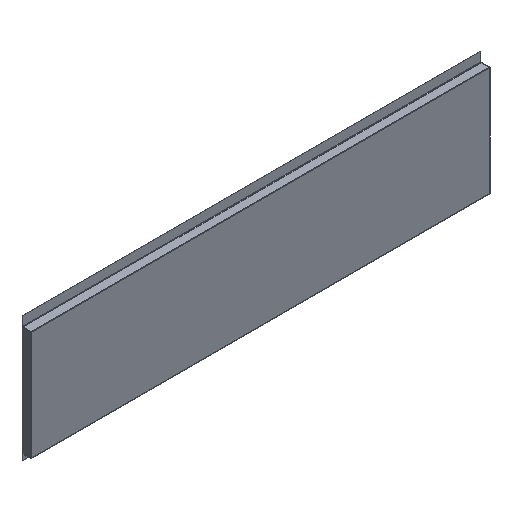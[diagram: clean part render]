
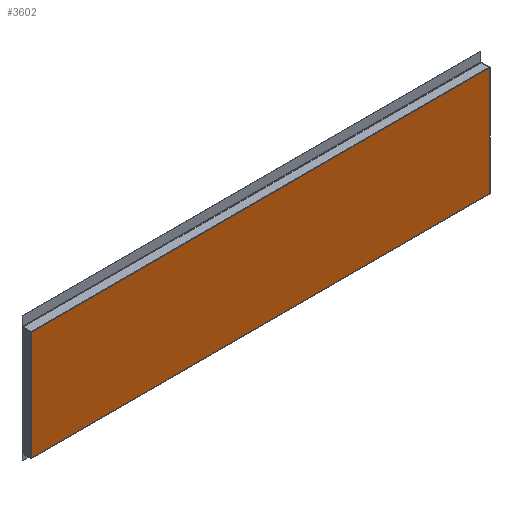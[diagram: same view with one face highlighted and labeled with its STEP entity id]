
A CAD part, isometric view. The second image highlights one B-rep face of the part: STEP entity #3602.
In plain terms, the highlighted planar face has unit normal (0, -1, 0).
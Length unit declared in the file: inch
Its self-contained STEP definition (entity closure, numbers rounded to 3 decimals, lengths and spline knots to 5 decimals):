
#464=FACE_OUTER_BOUND('',#644,.T.);
#644=EDGE_LOOP('',(#2895,#2896,#2897,#2898,#2899,#2900,#2901,#2902));
#1033=LINE('',#5918,#1389);
#1034=LINE('',#5921,#1390);
#1035=LINE('',#5923,#1391);
#1036=LINE('',#5925,#1392);
#1037=LINE('',#5926,#1393);
#1038=LINE('',#5928,#1394);
#1039=LINE('',#5930,#1395);
#1040=LINE('',#5931,#1396);
#1389=VECTOR('',#4862,0.03937);
#1390=VECTOR('',#4865,39.37008);
#1391=VECTOR('',#4866,39.37008);
#1392=VECTOR('',#4867,39.37008);
#1393=VECTOR('',#4868,0.03937);
#1394=VECTOR('',#4869,39.37008);
#1395=VECTOR('',#4870,39.37008);
#1396=VECTOR('',#4871,39.37008);
#1731=VERTEX_POINT('',#5853);
#1752=VERTEX_POINT('',#5902);
#1756=VERTEX_POINT('',#5916);
#1757=VERTEX_POINT('',#5920);
#1758=VERTEX_POINT('',#5922);
#1759=VERTEX_POINT('',#5924);
#1760=VERTEX_POINT('',#5927);
#1761=VERTEX_POINT('',#5929);
#2235=EDGE_CURVE('',#1756,#1752,#1033,.T.);
#2236=EDGE_CURVE('',#1757,#1756,#1034,.T.);
#2237=EDGE_CURVE('',#1757,#1758,#1035,.T.);
#2238=EDGE_CURVE('',#1758,#1759,#1036,.T.);
#2239=EDGE_CURVE('',#1731,#1759,#1037,.T.);
#2240=EDGE_CURVE('',#1731,#1760,#1038,.T.);
#2241=EDGE_CURVE('',#1761,#1760,#1039,.T.);
#2242=EDGE_CURVE('',#1752,#1761,#1040,.T.);
#2895=ORIENTED_EDGE('',*,*,#2235,.F.);
#2896=ORIENTED_EDGE('',*,*,#2236,.F.);
#2897=ORIENTED_EDGE('',*,*,#2237,.T.);
#2898=ORIENTED_EDGE('',*,*,#2238,.T.);
#2899=ORIENTED_EDGE('',*,*,#2239,.F.);
#2900=ORIENTED_EDGE('',*,*,#2240,.T.);
#2901=ORIENTED_EDGE('',*,*,#2241,.F.);
#2902=ORIENTED_EDGE('',*,*,#2242,.F.);
#3436=PLANE('',#3951);
#3602=ADVANCED_FACE('',(#464),#3436,.T.);
#3951=AXIS2_PLACEMENT_3D('',#5919,#4863,#4864);
#4862=DIRECTION('',(1.,0.,0.));
#4863=DIRECTION('center_axis',(0.,-1.,0.));
#4864=DIRECTION('ref_axis',(0.,0.,-1.));
#4865=DIRECTION('',(1.,0.,0.));
#4866=DIRECTION('',(0.,0.,-1.));
#4867=DIRECTION('',(1.,0.,0.));
#4868=DIRECTION('',(-1.,0.,0.));
#4869=DIRECTION('',(1.,0.,0.));
#4870=DIRECTION('',(0.,0.,-1.));
#4871=DIRECTION('',(1.,0.,0.));
#5853=CARTESIAN_POINT('',(263.3125,7.8069,51.548));
#5902=CARTESIAN_POINT('',(263.3125,7.8069,62.932));
#5916=CARTESIAN_POINT('',(215.4375,7.8069,62.932));
#5918=CARTESIAN_POINT('',(263.3125,7.8069,62.932));
#5919=CARTESIAN_POINT('Origin',(263.3125,7.8069,51.548));
#5920=CARTESIAN_POINT('',(215.426,7.8069,62.932));
#5921=CARTESIAN_POINT('',(215.426,7.8069,62.932));
#5922=CARTESIAN_POINT('',(215.426,7.8069,51.548));
#5923=CARTESIAN_POINT('',(215.426,7.8069,63.057));
#5924=CARTESIAN_POINT('',(215.4375,7.8069,51.548));
#5925=CARTESIAN_POINT('',(215.426,7.8069,51.548));
#5926=CARTESIAN_POINT('',(263.3125,7.8069,51.548));
#5927=CARTESIAN_POINT('',(263.324,7.8069,51.548));
#5928=CARTESIAN_POINT('',(263.324,7.8069,51.548));
#5929=CARTESIAN_POINT('',(263.324,7.8069,62.932));
#5930=CARTESIAN_POINT('',(263.324,7.8069,63.057));
#5931=CARTESIAN_POINT('',(263.324,7.8069,62.932));
